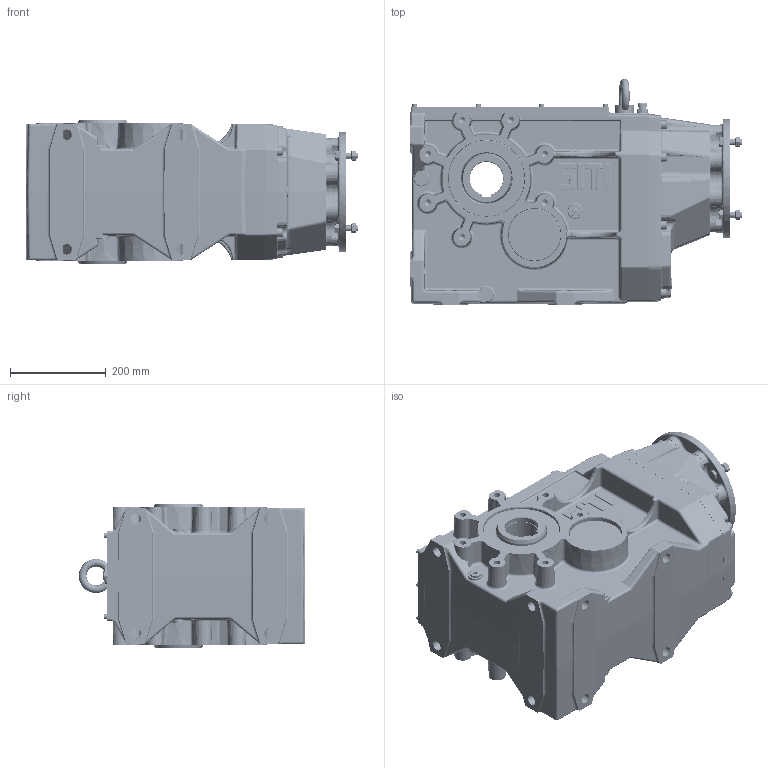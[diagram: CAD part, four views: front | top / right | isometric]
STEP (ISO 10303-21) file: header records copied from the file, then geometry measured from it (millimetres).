
FILE_DESCRIPTION((''),'2;1');
FILE_NAME('C:\Users\m.piscopiello.SITIRIDUTTORI\Desktop\3D x SITO\MBH 140 PAM 100-112\MBH_140 C PAM 100-112 B5.stp','2013-05-10T12:59:55',('m.piscopiello'),(''),'Autodesk Inventor 2012','Autodesk Inventor 2012','');
FILE_SCHEMA(('CONFIG_CONTROL_DESIGN'));
Length unit declared in the file: millimetre
Products named in the file (1): MBH_140 C PAM 100-112 B5
Bounding box: 695 x 473.95 x 300 mm (x, y, z)
Volume: 18169426.8 mm3; surface area: 2790428.8 mm2
Topology: 67 solids, 69 shells, 4241 faces, 10182 edges, 6071 vertices
Faces by surface type: plane 1177, cylinder 1139, bspline 921, torus 475, cone 388, sphere 141
Full cylindrical faces by diameter (mm): 3.15 x2, 3.5 x2, 4.917 x10, 6 x20, 6.4 x10, 7 x10, 10 x10, 10.106 x16, 12 x54, 12.5 x12, 13 x16, 13.835 x14, 14 x4, 14.95 x2, 16 x1, 16.6 x6, 17.294 x3, 18 x16, 19.5 x1, 20.5 x16, 22 x9, 25 x1, 26 x1, 30 x3, 38 x1, 40 x1, 71.938 x1, 72 x1, 74.975 x2, 75.35 x1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
Entity records: 162511 total; most frequent: CARTESIAN_POINT 68828, ORIENTED_EDGE 18400, DIRECTION 17730, EDGE_CURVE 9200, AXIS2_PLACEMENT_3D 7536, VERTEX_POINT 5800, EDGE_LOOP 5075, STYLED_ITEM 4307
